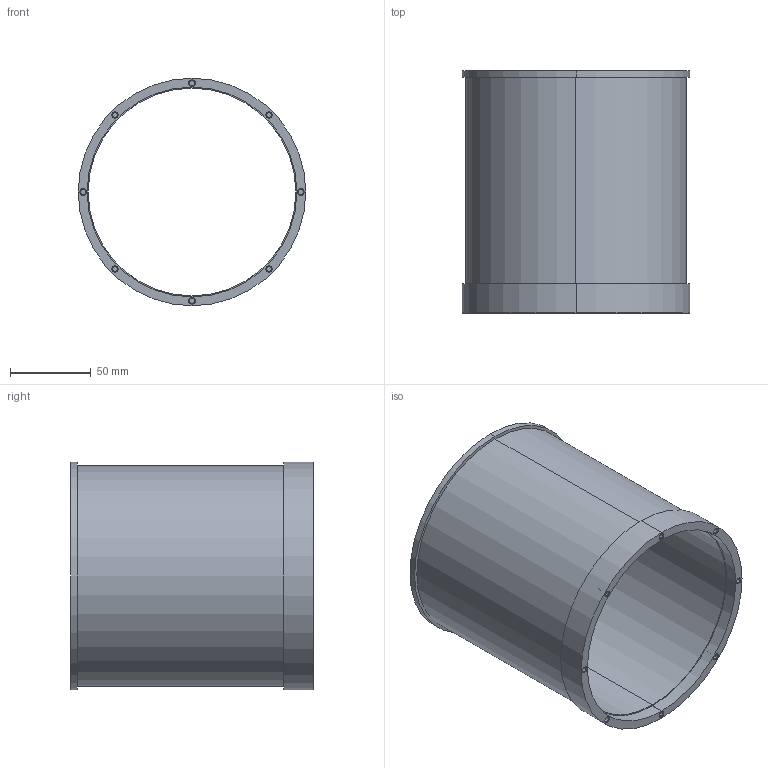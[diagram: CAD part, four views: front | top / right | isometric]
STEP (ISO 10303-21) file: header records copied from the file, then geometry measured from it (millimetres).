
FILE_DESCRIPTION(/* description */ ('VariCAD 2009-1.04 AP-203'),/* implementation_level */ '2;1');
FILE_NAME(/* name */ '0353-10-13',/* time_stamp */ '2009-11-20T18:10:44-07:00',/* author */ (''),/* organization */ (''),/* preprocessor_version */ 'ST-DEVELOPER v12',/* originating_system */ 'VariCAD 2009-1.04; kernel version (20080921)',/* authorisation */ '');
FILE_SCHEMA (('CONFIG_CONTROL_DESIGN'));
Length unit declared in the file: millimetre
Products named in the file (1): Part
Bounding box: 141 x 150 x 141 mm (x, y, z)
Volume: 274788.3 mm3; surface area: 134410 mm2
Topology: 9 solids, 9 shells, 122 faces, 244 edges, 152 vertices
Faces by surface type: cylinder 76, plane 30, cone 16
Entity records: 3318 total; most frequent: DIRECTION 660, CARTESIAN_POINT 528, ORIENTED_EDGE 488, AXIS2_PLACEMENT_3D 284, EDGE_CURVE 244, EDGE_LOOP 152, CIRCLE 152, VERTEX_POINT 152
